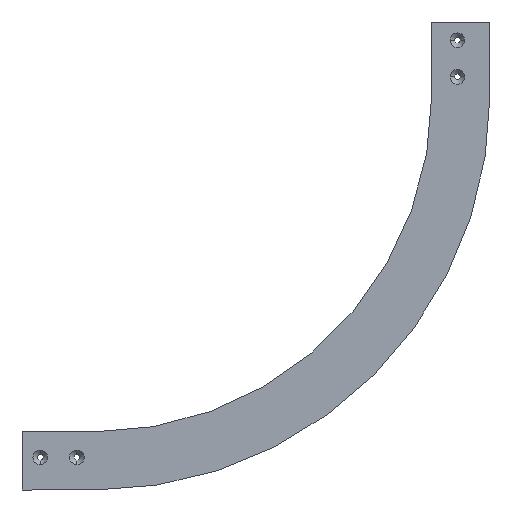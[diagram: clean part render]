
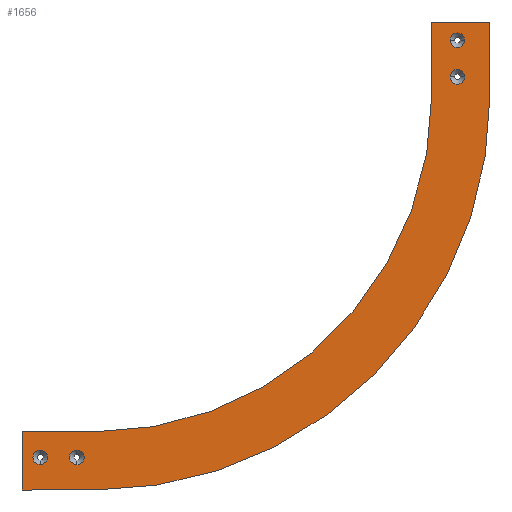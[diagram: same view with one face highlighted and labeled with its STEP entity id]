
A CAD part, left-side view. The second image highlights one B-rep face of the part: STEP entity #1656.
In plain terms, the highlighted planar face has unit normal (-1, 0, 0).
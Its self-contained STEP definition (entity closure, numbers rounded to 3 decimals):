
#225 = CARTESIAN_POINT ( 'NONE',  ( -35., 14.8, -75. ) ) ;
#235 = CARTESIAN_POINT ( 'NONE',  ( -35., 525., -585.2 ) ) ;
#240 = CARTESIAN_POINT ( 'NONE',  ( -35., 14.8, -25. ) ) ;
#245 = CARTESIAN_POINT ( 'NONE',  ( -35., -5.2, -75. ) ) ;
#247 = CARTESIAN_POINT ( 'NONE',  ( -35., 525., -605.2 ) ) ;
#248 = CARTESIAN_POINT ( 'NONE',  ( -35., 575., -585.2 ) ) ;
#266 = CARTESIAN_POINT ( 'NONE',  ( -35., -5.2, -25. ) ) ;
#285 = CARTESIAN_POINT ( 'NONE',  ( -35., 39.8, -100. ) ) ;
#293 = CARTESIAN_POINT ( 'NONE',  ( -35., 600., -639.8 ) ) ;
#299 = CARTESIAN_POINT ( 'NONE',  ( -35., 500., -639.8 ) ) ;
#315 = CARTESIAN_POINT ( 'NONE',  ( -35., 575., -605.2 ) ) ;
#364 = CARTESIAN_POINT ( 'NONE',  ( -35., 600., -560.2 ) ) ;
#369 = CARTESIAN_POINT ( 'NONE',  ( -35., 500., -560.2 ) ) ;
#386 = CARTESIAN_POINT ( 'NONE',  ( -35., 39.8, 0. ) ) ;
#411 = CARTESIAN_POINT ( 'NONE',  ( -35., -39.8, 0. ) ) ;
#419 = CARTESIAN_POINT ( 'NONE',  ( -35., -39.8, -100. ) ) ;
#458 = VERTEX_POINT ( 'NONE', #419 ) ;
#466 = VERTEX_POINT ( 'NONE', #411 ) ;
#491 = VERTEX_POINT ( 'NONE', #386 ) ;
#508 = VERTEX_POINT ( 'NONE', #369 ) ;
#513 = VERTEX_POINT ( 'NONE', #364 ) ;
#562 = VERTEX_POINT ( 'NONE', #315 ) ;
#578 = VERTEX_POINT ( 'NONE', #299 ) ;
#584 = VERTEX_POINT ( 'NONE', #293 ) ;
#592 = VERTEX_POINT ( 'NONE', #285 ) ;
#611 = VERTEX_POINT ( 'NONE', #266 ) ;
#629 = VERTEX_POINT ( 'NONE', #248 ) ;
#630 = VERTEX_POINT ( 'NONE', #247 ) ;
#632 = VERTEX_POINT ( 'NONE', #245 ) ;
#637 = VERTEX_POINT ( 'NONE', #240 ) ;
#642 = VERTEX_POINT ( 'NONE', #235 ) ;
#652 = VERTEX_POINT ( 'NONE', #225 ) ;
#725 = DIRECTION ( 'NONE',  ( 0., 0., -1. ) ) ;
#727 = CARTESIAN_POINT ( 'NONE',  ( -35., 500., -100. ) ) ;
#738 = DIRECTION ( 'NONE',  ( 0., 1., 0. ) ) ;
#739 = CARTESIAN_POINT ( 'NONE',  ( -35., 500., -639.8 ) ) ;
#749 = DIRECTION ( 'NONE',  ( 1., 0., 0. ) ) ;
#846 = DIRECTION ( 'NONE',  ( 0., 1., 0. ) ) ;
#847 = CARTESIAN_POINT ( 'NONE',  ( -35., 500., -560.2 ) ) ;
#908 = DIRECTION ( 'NONE',  ( 0., -1., 0. ) ) ;
#909 = DIRECTION ( 'NONE',  ( 1., 0., 0. ) ) ;
#910 = CARTESIAN_POINT ( 'NONE',  ( -35., 4.8, -25. ) ) ;
#923 = DIRECTION ( 'NONE',  ( 0., -1., 0. ) ) ;
#924 = DIRECTION ( 'NONE',  ( 1., 0., 0. ) ) ;
#925 = CARTESIAN_POINT ( 'NONE',  ( -35., 4.8, -75. ) ) ;
#941 = DIRECTION ( 'NONE',  ( 0., -1., 0. ) ) ;
#942 = DIRECTION ( 'NONE',  ( 1., 0., 0. ) ) ;
#943 = CARTESIAN_POINT ( 'NONE',  ( -35., 525., -595.2 ) ) ;
#959 = DIRECTION ( 'NONE',  ( 0., -1., 0. ) ) ;
#960 = DIRECTION ( 'NONE',  ( 1., 0., 0. ) ) ;
#961 = CARTESIAN_POINT ( 'NONE',  ( -35., 575., -595.2 ) ) ;
#1118 = DIRECTION ( 'NONE',  ( 0., -1., 0. ) ) ;
#1120 = DIRECTION ( 'NONE',  ( -1., 0., 0. ) ) ;
#1123 = CARTESIAN_POINT ( 'NONE',  ( -35., 39.8, -100. ) ) ;
#1126 = PLANE ( 'NONE',  #2292 ) ;
#1656 = ADVANCED_FACE ( 'NONE', ( #2873, #2872, #2871, #2870, #2869 ), #1126, .T. ) ;
#1722 = VECTOR ( 'NONE', #3845, 1000. ) ;
#1723 = LINE ( 'NONE', #3844, #1722 ) ;
#1724 = VECTOR ( 'NONE', #3843, 1000. ) ;
#1725 = LINE ( 'NONE', #3842, #1724 ) ;
#1726 = VECTOR ( 'NONE', #3806, 1000. ) ;
#1727 = CIRCLE ( 'NONE', #2218, 10. ) ;
#1728 = LINE ( 'NONE', #3818, #1726 ) ;
#1729 = CIRCLE ( 'NONE', #2252, 10. ) ;
#1730 = CIRCLE ( 'NONE', #2212, 10. ) ;
#1731 = CIRCLE ( 'NONE', #2190, 10. ) ;
#1734 = VECTOR ( 'NONE', #3825, 1000. ) ;
#1735 = LINE ( 'NONE', #3830, #1734 ) ;
#1739 = CIRCLE ( 'NONE', #2476, 539.8 ) ;
#1779 = CIRCLE ( 'NONE', #2221, 460.2 ) ;
#1788 = VECTOR ( 'NONE', #738, 1000. ) ;
#1789 = LINE ( 'NONE', #739, #1788 ) ;
#1879 = VECTOR ( 'NONE', #846, 1000. ) ;
#1880 = LINE ( 'NONE', #847, #1879 ) ;
#1915 = CIRCLE ( 'NONE', #2195, 10. ) ;
#1921 = CIRCLE ( 'NONE', #2198, 10. ) ;
#1928 = CIRCLE ( 'NONE', #2202, 10. ) ;
#1935 = CIRCLE ( 'NONE', #2211, 10. ) ;
#2190 = AXIS2_PLACEMENT_3D ( 'NONE', #3834, #3836, #3837 ) ;
#2195 = AXIS2_PLACEMENT_3D ( 'NONE', #910, #909, #908 ) ;
#2198 = AXIS2_PLACEMENT_3D ( 'NONE', #925, #924, #923 ) ;
#2202 = AXIS2_PLACEMENT_3D ( 'NONE', #943, #942, #941 ) ;
#2211 = AXIS2_PLACEMENT_3D ( 'NONE', #961, #960, #959 ) ;
#2212 = AXIS2_PLACEMENT_3D ( 'NONE', #3838, #3841, #3824 ) ;
#2218 = AXIS2_PLACEMENT_3D ( 'NONE', #3821, #3820, #3819 ) ;
#2221 = AXIS2_PLACEMENT_3D ( 'NONE', #727, #749, #725 ) ;
#2252 = AXIS2_PLACEMENT_3D ( 'NONE', #3828, #3823, #3822 ) ;
#2292 = AXIS2_PLACEMENT_3D ( 'NONE', #1123, #1120, #1118 ) ;
#2476 = AXIS2_PLACEMENT_3D ( 'NONE', #3809, #3815, #3832 ) ;
#2632 = EDGE_CURVE ( 'NONE', #629, #562, #1935, .T. ) ;
#2637 = EDGE_CURVE ( 'NONE', #642, #630, #1928, .T. ) ;
#2642 = EDGE_CURVE ( 'NONE', #632, #652, #1921, .T. ) ;
#2646 = EDGE_CURVE ( 'NONE', #611, #637, #1915, .T. ) ;
#2665 = EDGE_CURVE ( 'NONE', #508, #513, #1880, .T. ) ;
#2699 = EDGE_CURVE ( 'NONE', #578, #584, #1789, .T. ) ;
#2704 = EDGE_CURVE ( 'NONE', #592, #508, #1779, .T. ) ;
#2730 = EDGE_CURVE ( 'NONE', #458, #578, #1739, .T. ) ;
#2733 = EDGE_CURVE ( 'NONE', #458, #466, #1735, .T. ) ;
#2735 = EDGE_CURVE ( 'NONE', #637, #611, #1731, .T. ) ;
#2736 = EDGE_CURVE ( 'NONE', #652, #632, #1730, .T. ) ;
#2737 = EDGE_CURVE ( 'NONE', #630, #642, #1729, .T. ) ;
#2738 = EDGE_CURVE ( 'NONE', #562, #629, #1727, .T. ) ;
#2739 = EDGE_CURVE ( 'NONE', #491, #466, #1728, .T. ) ;
#2740 = EDGE_CURVE ( 'NONE', #592, #491, #1725, .T. ) ;
#2741 = EDGE_CURVE ( 'NONE', #513, #584, #1723, .T. ) ;
#2869 = FACE_OUTER_BOUND ( 'NONE', #3696, .T. ) ;
#2870 = FACE_BOUND ( 'NONE', #3695, .T. ) ;
#2871 = FACE_BOUND ( 'NONE', #3694, .T. ) ;
#2872 = FACE_BOUND ( 'NONE', #3693, .T. ) ;
#2873 = FACE_BOUND ( 'NONE', #3770, .T. ) ;
#3485 = ORIENTED_EDGE ( 'NONE', *, *, #2646, .T. ) ;
#3486 = ORIENTED_EDGE ( 'NONE', *, *, #2735, .T. ) ;
#3487 = ORIENTED_EDGE ( 'NONE', *, *, #2642, .T. ) ;
#3488 = ORIENTED_EDGE ( 'NONE', *, *, #2736, .T. ) ;
#3489 = ORIENTED_EDGE ( 'NONE', *, *, #2637, .T. ) ;
#3490 = ORIENTED_EDGE ( 'NONE', *, *, #2737, .T. ) ;
#3491 = ORIENTED_EDGE ( 'NONE', *, *, #2632, .T. ) ;
#3492 = ORIENTED_EDGE ( 'NONE', *, *, #2738, .T. ) ;
#3493 = ORIENTED_EDGE ( 'NONE', *, *, #2739, .F. ) ;
#3494 = ORIENTED_EDGE ( 'NONE', *, *, #2740, .F. ) ;
#3495 = ORIENTED_EDGE ( 'NONE', *, *, #2704, .T. ) ;
#3496 = ORIENTED_EDGE ( 'NONE', *, *, #2665, .T. ) ;
#3497 = ORIENTED_EDGE ( 'NONE', *, *, #2741, .T. ) ;
#3498 = ORIENTED_EDGE ( 'NONE', *, *, #2699, .F. ) ;
#3499 = ORIENTED_EDGE ( 'NONE', *, *, #2730, .F. ) ;
#3500 = ORIENTED_EDGE ( 'NONE', *, *, #2733, .T. ) ;
#3693 = EDGE_LOOP ( 'NONE', ( #3487, #3488 ) ) ;
#3694 = EDGE_LOOP ( 'NONE', ( #3489, #3490 ) ) ;
#3695 = EDGE_LOOP ( 'NONE', ( #3491, #3492 ) ) ;
#3696 = EDGE_LOOP ( 'NONE', ( #3493, #3494, #3495, #3496, #3497, #3498, #3499, #3500 ) ) ;
#3770 = EDGE_LOOP ( 'NONE', ( #3485, #3486 ) ) ;
#3806 = DIRECTION ( 'NONE',  ( 0., -1., 0. ) ) ;
#3809 = CARTESIAN_POINT ( 'NONE',  ( -35., 500., -100. ) ) ;
#3815 = DIRECTION ( 'NONE',  ( 1., 0., 0. ) ) ;
#3818 = CARTESIAN_POINT ( 'NONE',  ( -35., 39.8, 0. ) ) ;
#3819 = DIRECTION ( 'NONE',  ( 0., -1., 0. ) ) ;
#3820 = DIRECTION ( 'NONE',  ( 1., 0., 0. ) ) ;
#3821 = CARTESIAN_POINT ( 'NONE',  ( -35., 575., -595.2 ) ) ;
#3822 = DIRECTION ( 'NONE',  ( 0., -1., 0. ) ) ;
#3823 = DIRECTION ( 'NONE',  ( 1., 0., 0. ) ) ;
#3824 = DIRECTION ( 'NONE',  ( 0., -1., 0. ) ) ;
#3825 = DIRECTION ( 'NONE',  ( 0., 0., 1. ) ) ;
#3828 = CARTESIAN_POINT ( 'NONE',  ( -35., 525., -595.2 ) ) ;
#3830 = CARTESIAN_POINT ( 'NONE',  ( -35., -39.8, -100. ) ) ;
#3832 = DIRECTION ( 'NONE',  ( 0., 0., -1. ) ) ;
#3834 = CARTESIAN_POINT ( 'NONE',  ( -35., 4.8, -25. ) ) ;
#3836 = DIRECTION ( 'NONE',  ( 1., 0., 0. ) ) ;
#3837 = DIRECTION ( 'NONE',  ( 0., -1., 0. ) ) ;
#3838 = CARTESIAN_POINT ( 'NONE',  ( -35., 4.8, -75. ) ) ;
#3841 = DIRECTION ( 'NONE',  ( 1., 0., 0. ) ) ;
#3842 = CARTESIAN_POINT ( 'NONE',  ( -35., 39.8, -100. ) ) ;
#3843 = DIRECTION ( 'NONE',  ( 0., 0., 1. ) ) ;
#3844 = CARTESIAN_POINT ( 'NONE',  ( -35., 600., -560.2 ) ) ;
#3845 = DIRECTION ( 'NONE',  ( 0., 0., -1. ) ) ;
